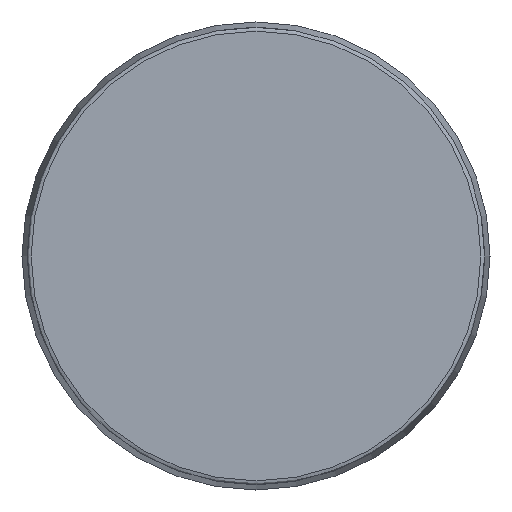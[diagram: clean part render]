
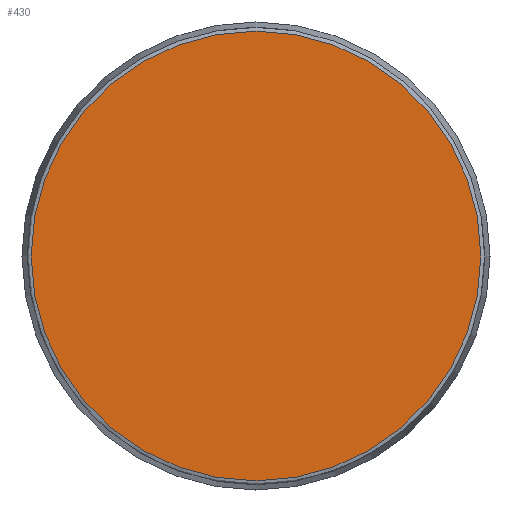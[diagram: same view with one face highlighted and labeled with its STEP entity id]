
A CAD part, left-side view. The second image highlights one B-rep face of the part: STEP entity #430.
In plain terms, the highlighted planar face has unit normal (-1, 0, 0).
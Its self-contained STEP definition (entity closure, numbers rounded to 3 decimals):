
#392=CARTESIAN_POINT('',(-435.944,-488.109,28.851));
#393=VERTEX_POINT('',#392);
#401=CARTESIAN_POINT('',(-435.944,-488.109,-86.425));
#402=VERTEX_POINT('',#401);
#403=CARTESIAN_POINT('',(-435.944,-488.109,-28.787));
#404=DIRECTION('',(-1.0,0.0,0.));
#405=DIRECTION('',(0.,0.0,1.0));
#406=AXIS2_PLACEMENT_3D('',#403,#404,#405);
#407=CIRCLE('',#406,57.638);
#408=EDGE_CURVE('',#402,#393,#407,.T.);
#410=CARTESIAN_POINT('',(-435.944,-488.109,-28.787));
#411=DIRECTION('',(-1.0,0.0,0.));
#412=DIRECTION('',(0.,0.0,1.0));
#413=AXIS2_PLACEMENT_3D('',#410,#411,#412);
#414=CIRCLE('',#413,57.638);
#415=EDGE_CURVE('',#393,#402,#414,.T.);
#421=CARTESIAN_POINT('',(-435.944,-603.386,86.489));
#422=DIRECTION('',(-1.0,0.0,0.0));
#423=DIRECTION('',(0.0,1.0,0.0));
#424=AXIS2_PLACEMENT_3D('',#421,#422,#423);
#425=PLANE('',#424);
#426=ORIENTED_EDGE('',*,*,#415,.T.);
#427=ORIENTED_EDGE('',*,*,#408,.T.);
#428=EDGE_LOOP('',(#426,#427));
#429=FACE_OUTER_BOUND('',#428,.T.);
#430=ADVANCED_FACE('',(#429),#425,.T.);
